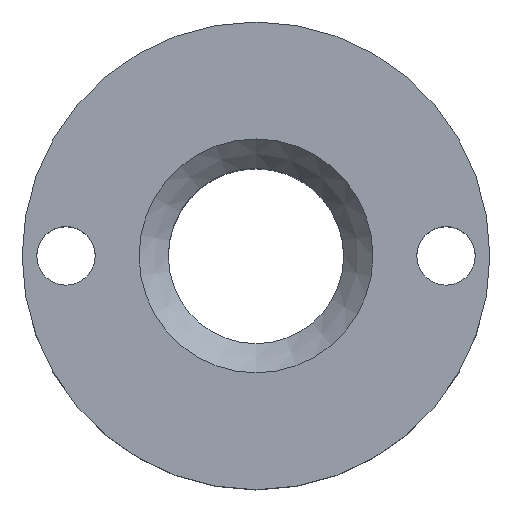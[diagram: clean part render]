
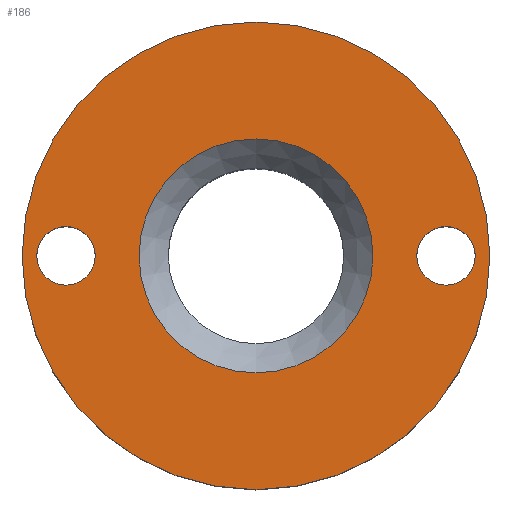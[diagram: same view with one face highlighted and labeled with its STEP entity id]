
A CAD part, top view. The second image highlights one B-rep face of the part: STEP entity #186.
In plain terms, the highlighted planar face has unit normal (0, 0, 1).
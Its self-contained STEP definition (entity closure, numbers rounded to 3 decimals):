
#16=FACE_BOUND('',#47,.T.);
#17=FACE_BOUND('',#48,.T.);
#18=FACE_BOUND('',#49,.T.);
#23=PLANE('',#224);
#34=FACE_OUTER_BOUND('',#46,.T.);
#46=EDGE_LOOP('',(#149));
#47=EDGE_LOOP('',(#150));
#48=EDGE_LOOP('',(#151));
#49=EDGE_LOOP('',(#152));
#81=CIRCLE('',#223,4.);
#82=CIRCLE('',#225,8.);
#83=CIRCLE('',#226,1.);
#84=CIRCLE('',#227,1.);
#97=VERTEX_POINT('',#323);
#98=VERTEX_POINT('',#327);
#99=VERTEX_POINT('',#329);
#100=VERTEX_POINT('',#331);
#116=EDGE_CURVE('',#97,#97,#81,.T.);
#117=EDGE_CURVE('',#98,#98,#82,.T.);
#118=EDGE_CURVE('',#99,#99,#83,.T.);
#119=EDGE_CURVE('',#100,#100,#84,.T.);
#149=ORIENTED_EDGE('',*,*,#117,.T.);
#150=ORIENTED_EDGE('',*,*,#118,.T.);
#151=ORIENTED_EDGE('',*,*,#119,.T.);
#152=ORIENTED_EDGE('',*,*,#116,.F.);
#186=ADVANCED_FACE('',(#34,#16,#17,#18),#23,.T.);
#223=AXIS2_PLACEMENT_3D('',#325,#265,#266);
#224=AXIS2_PLACEMENT_3D('',#326,#267,#268);
#225=AXIS2_PLACEMENT_3D('',#328,#269,#270);
#226=AXIS2_PLACEMENT_3D('',#330,#271,#272);
#227=AXIS2_PLACEMENT_3D('',#332,#273,#274);
#265=DIRECTION('center_axis',(0.,0.,1.));
#266=DIRECTION('ref_axis',(0.,1.,0.));
#267=DIRECTION('center_axis',(0.,0.,1.));
#268=DIRECTION('ref_axis',(1.,0.,0.));
#269=DIRECTION('center_axis',(0.,0.,1.));
#270=DIRECTION('ref_axis',(1.,0.,0.));
#271=DIRECTION('center_axis',(0.,0.,-1.));
#272=DIRECTION('ref_axis',(1.,0.,0.));
#273=DIRECTION('center_axis',(0.,0.,-1.));
#274=DIRECTION('ref_axis',(-1.,0.,0.));
#323=CARTESIAN_POINT('',(0.,-4.,16.));
#325=CARTESIAN_POINT('Origin',(0.,0.,16.));
#326=CARTESIAN_POINT('Origin',(0.,-3.,16.));
#327=CARTESIAN_POINT('',(0.,8.,16.));
#328=CARTESIAN_POINT('Origin',(0.,0.,16.));
#329=CARTESIAN_POINT('',(5.5,0.,16.));
#330=CARTESIAN_POINT('Origin',(6.5,0.,16.));
#331=CARTESIAN_POINT('',(-5.5,0.,16.));
#332=CARTESIAN_POINT('Origin',(-6.5,0.,16.));
